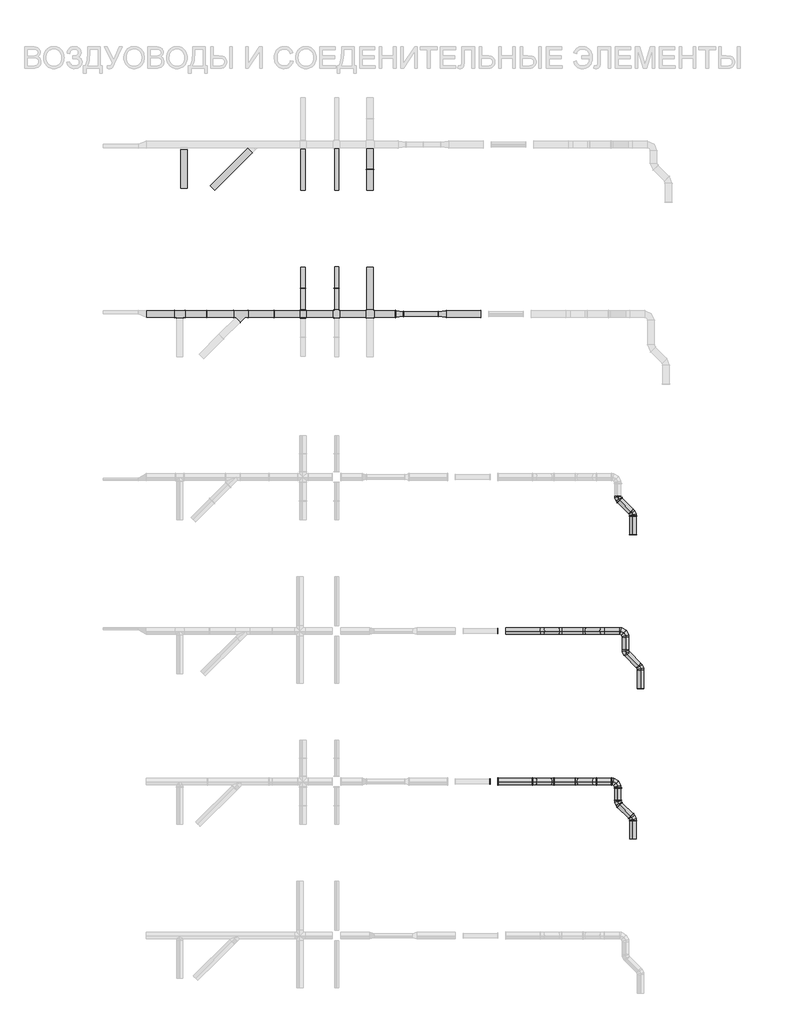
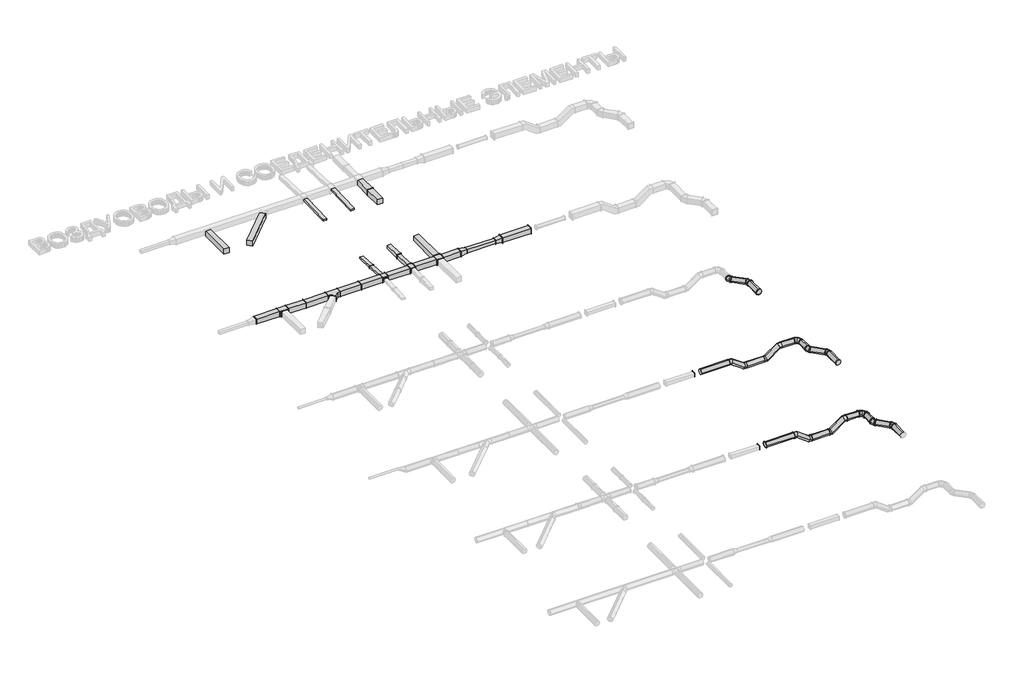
# One storey, part 4 of 8: 65 duct fittings, 35 duct segments.
"""IFC4 building model written with IfcOpenShell, lengths in millimetres."""

from ifc_helpers import new_model, si_unit, point, frame, frame_2d, origin, place, context, project, spatial, polyline, circle_curve, trimmed, segment, composite_curve, outline, extrude, transform, mapped, element, save
from components import duct_fitting_ac770645, duct_fitting_5eff2181, duct_fitting_46974226, duct_fitting_f76519de, duct_fitting_359aeb7f, duct_fitting_4d285b53, duct_fitting_5b7d299d, duct_fitting_28c7dad8, duct_fitting_134aa0d4, duct_fitting_7def25b7, duct_fitting_d50b9d73, duct_fitting_96916f98, duct_fitting_25271141, duct_fitting_49a873c3, duct_fitting_0a7cc2d9, duct_fitting_ae186bbf, duct_fitting_8ec2bed2, duct_fitting_57fa9806, duct_fitting_3be22136, duct_fitting_a3a79c44, duct_fitting_24f2fb5e

model = new_model("IFC4")

# Units and contexts
model_context = context("Model", 3, world=origin())
ifc_project = project(units=[si_unit("LENGTHUNIT", "METRE", prefix="MILLI")], contexts=[model_context])

# Site, building, storey
site = spatial("IfcSite", under=ifc_project)
building = spatial("IfcBuilding", under=site)
storey = spatial("IfcBuildingStorey", under=building, Name="Уровень 1", Elevation=0.0)

# Duct fittings
placement = place(None, origin())
duct_fitting_shape = duct_fitting_ac770645(model_context)
element("IfcDuctFitting", 1, ObjectType="BL_ЗаглушкаВоздуховодов_Круглая : Ниппельное соединение", at=placement, inside=storey, context=model_context, shape_type="MappedRepresentation", body=[
    mapped(duct_fitting_shape, transform((-24824.5423961, 6973.1889332, 1050.0), x_axis=(0.0, -1.0, 0.0), y_axis=(1.0, 0.0, 0.0), z_axis=(0.0, 0.0, 1.0))),
])
duct_fitting_2_shape = duct_fitting_5eff2181(model_context)
element("IfcDuctFitting", 2, ObjectType="BL_УткаВоздуховодов_Круглая : Ниппельное соединение", at=placement, inside=storey, context=model_context, shape_type="MappedRepresentation", body=[
    mapped(duct_fitting_2_shape, transform((-29531.6491772, 9680.2957144, 1050.0), x_axis=(1.0, 0.0, 0.0), y_axis=(0.0, 1.0, 0.0), z_axis=(0.0, 0.0, 1.0))),
])
duct_fitting_3_shape = duct_fitting_46974226(model_context)
element("IfcDuctFitting", 3, ObjectType="BL_ОтводВоздуховодов_Круглый : Ниппельное соединение", at=placement, inside=storey, context=model_context, shape_type="MappedRepresentation", body=[
    mapped(duct_fitting_3_shape, transform((-25531.6491772, 9680.2957144, 1050.0), x_axis=(0.0, 1.0, 0.0), y_axis=(-1.0, 0.0, 0.0), z_axis=(0.0, 0.0, 1.0))),
])
duct_fitting_4_shape = duct_fitting_f76519de(model_context)
element("IfcDuctFitting", 4, ObjectType="BL_ОтводВоздуховодов_Круглый : Ниппельное соединение", at=placement, inside=storey, context=model_context, shape_type="MappedRepresentation", body=[
    mapped(duct_fitting_4_shape, transform((-25531.6491772, 8680.2957144, 1050.0), x_axis=(0.0, -1.0, 0.0), y_axis=(1.0, 0.0, 0.0), z_axis=(0.0, 0.0, 1.0))),
])
element("IfcDuctFitting", 5, ObjectType="BL_ОтводВоздуховодов_Круглый : Ниппельное соединение", at=placement, inside=storey, context=model_context, shape_type="MappedRepresentation", body=[
    mapped(duct_fitting_4_shape, transform((-24824.5423961, 7973.1889332, 1050.0), x_axis=(0.0, 1.0, 0.0), y_axis=(-1.0, 0.0, 0.0), z_axis=(0.0, 0.0, 1.0))),
])
duct_fitting_5_shape = duct_fitting_359aeb7f(model_context)
element("IfcDuctFitting", 6, ObjectType="BL_ТройникВоздуховодов_Прямоугольный-45 : BL_ТройникВоздуховодов_Прямоугольный-45", at=placement, inside=storey, context=model_context, shape_type="MappedRepresentation", body=[
    mapped(duct_fitting_5_shape, transform((-43592.0423234, 24570.0855378, 1050.0), x_axis=(-1.0, 0.0, 0.0), y_axis=(0.0, -1.0, 0.0), z_axis=(0.0, 0.0, 1.0))),
])
duct_fitting_6_shape = duct_fitting_4d285b53(model_context)
element("IfcDuctFitting", 7, ObjectType="BL_ТройникВоздуховодов_Прямоугольный-90 : BL_ТройникВоздуховодов_Прямоугольный-90", at=placement, inside=storey, context=model_context, shape_type="MappedRepresentation", body=[
    mapped(duct_fitting_6_shape, transform((-46460.2026389, 24570.0855378, 1050.0), x_axis=(1.0, 0.0, 0.0), y_axis=(0.0, 1.0, 0.0), z_axis=(0.0, 0.0, 1.0))),
])
duct_fitting_7_shape = duct_fitting_5b7d299d(model_context)
element("IfcDuctFitting", 8, ObjectType="BL_УткаВоздуховодов_Круглая : Ниппельное соединение", at=placement, inside=storey, context=model_context, shape_type="MappedRepresentation", body=[
    mapped(duct_fitting_7_shape, transform((-26531.6491772, 9680.2957144, 1050.0), x_axis=(-1.0, 0.0, 0.0), y_axis=(0.0, -1.0, 0.0), z_axis=(0.0, 0.0, 1.0))),
])
duct_fitting_8_shape = duct_fitting_28c7dad8(model_context)
element("IfcDuctFitting", 9, ObjectType="BL_КрестовинаВоздуховодов_Прямоугольная : BL_КрестовинаВоздуховодов_Прямоугольная", at=placement, inside=storey, context=model_context, shape_type="MappedRepresentation", body=[
    mapped(duct_fitting_8_shape, transform((-37531.6491772, 24570.0855378, 1050.0), x_axis=(0.0, 1.0, 0.0), y_axis=(-1.0, 0.0, 0.0), z_axis=(0.0, 0.0, 1.0))),
])
duct_fitting_9_shape = duct_fitting_134aa0d4(model_context)
element("IfcDuctFitting", 10, ObjectType="BL_КрестовинаВоздуховодов_Прямоугольная : BL_КрестовинаВоздуховодов_Прямоугольная", at=placement, inside=storey, context=model_context, shape_type="MappedRepresentation", body=[
    mapped(duct_fitting_9_shape, transform((-39094.0705642, 24570.0855378, 1050.0), x_axis=(1.0, 0.0, 0.0), y_axis=(0.0, 1.0, 0.0), z_axis=(0.0, 0.0, 1.0))),
])
duct_fitting_10_shape = duct_fitting_7def25b7(model_context)
element("IfcDuctFitting", 11, ObjectType="BL_КрестовинаВоздуховодов_Прямоугольная : BL_КрестовинаВоздуховодов_Прямоугольная", at=placement, inside=storey, context=model_context, shape_type="MappedRepresentation", body=[
    mapped(duct_fitting_10_shape, transform((-40674.0705642, 24570.0855378, 1050.0), x_axis=(1.0, 0.0, 0.0), y_axis=(0.0, 1.0, 0.0), z_axis=(0.0, 0.0, 1.0))),
])
duct_fitting_11_shape = duct_fitting_d50b9d73(model_context)
element("IfcDuctFitting", 12, ObjectType="BL_ПереходникВоздуховодов_Прямоугольный : BL_ПереходникВоздуховодов_Прямоугольный", at=placement, inside=storey, context=model_context, shape_type="MappedRepresentation", body=[
    mapped(duct_fitting_11_shape, transform((-36331.6491772, 24570.0855378, 1050.0), x_axis=(1.0, 0.0, 0.0), y_axis=(0.0, 1.0, 0.0), z_axis=(0.0, 0.0, 1.0))),
])
duct_fitting_12_shape = duct_fitting_96916f98(model_context)
element("IfcDuctFitting", 13, ObjectType="BL_ПереходникВоздуховодов_Прямоугольный : BL_ПереходникВоздуховодов_Прямоугольный", at=placement, inside=storey, context=model_context, shape_type="MappedRepresentation", body=[
    mapped(duct_fitting_12_shape, transform((-34331.6491772, 24570.0855378, 1050.0), x_axis=(1.0, 0.0, 0.0), y_axis=(0.0, 1.0, 0.0), z_axis=(0.0, 0.0, 1.0))),
])
duct_fitting_13_shape = duct_fitting_25271141(model_context)
element("IfcDuctFitting", 14, ObjectType="BL_ФланецВоздуховдов-Двойной_Прямоугольный : BL_ФланецВоздуховдов-Двойной_Прямоугольный", at=placement, inside=storey, context=model_context, shape_type="MappedRepresentation", body=[
    mapped(duct_fitting_13_shape, transform((-37577.3234002, 31349.2969276, 1050.0), x_axis=(0.0, 1.0, 0.0), y_axis=(-1.0, 0.0, 0.0), z_axis=(0.0, 0.0, 1.0))),
])
element("IfcDuctFitting", 15, ObjectType="BL_ФланецВоздуховдов-Двойной_Прямоугольный : BL_ФланецВоздуховдов-Двойной_Прямоугольный", at=placement, inside=storey, context=model_context, shape_type="MappedRepresentation", body=[
    mapped(duct_fitting_13_shape, transform((-45197.0267813, 24524.4113148, 1050.0), x_axis=(-1.0, 0.0, 0.0), y_axis=(0.0, -1.0, 0.0), z_axis=(0.0, 0.0, 1.0))),
])
element("IfcDuctFitting", 16, ObjectType="BL_ФланецВоздуховдов-Двойной_Прямоугольный : BL_ФланецВоздуховдов-Двойной_Прямоугольный", at=placement, inside=storey, context=model_context, shape_type="MappedRepresentation", body=[
    mapped(duct_fitting_13_shape, transform((-42038.0564438, 24615.7597607, 1050.0), x_axis=(1.0, 0.0, 0.0), y_axis=(0.0, 1.0, 0.0), z_axis=(0.0, 0.0, 1.0))),
])
duct_fitting_14_shape = duct_fitting_49a873c3(model_context)
element("IfcDuctFitting", 17, ObjectType="BL_ФланецВоздуховдов-Двойной_Прямоугольный : BL_ФланецВоздуховдов-Двойной_Прямоугольный", at=placement, inside=storey, context=model_context, shape_type="MappedRepresentation", body=[
    mapped(duct_fitting_14_shape, transform((-39139.7447871, 25773.8072789, 1074.9162774), x_axis=(0.0, 0.9996878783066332, -0.024982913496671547), y_axis=(-1.0, 0.0, 0.0), z_axis=(0.0, 0.024982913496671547, 0.9996878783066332))),
])
duct_fitting_15_shape = duct_fitting_0a7cc2d9(model_context)
element("IfcDuctFitting", 18, ObjectType="BL_ФланецВоздуховдов-Двойной_Прямоугольный : BL_ФланецВоздуховдов-Двойной_Прямоугольный", at=placement, inside=storey, context=model_context, shape_type="MappedRepresentation", body=[
    mapped(duct_fitting_15_shape, transform((-40719.7447871, 25772.9313536, 999.8763348), x_axis=(0.0, 0.9987532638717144, -0.04991911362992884), y_axis=(-1.0, 0.0, 0.0), z_axis=(0.0, 0.04991911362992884, 0.9987532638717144))),
])
element("IfcDuctFitting", 19, ObjectType="BL_УткаВоздуховодов_Круглая : Фланцевое соединение", at=placement, inside=storey, context=model_context, shape_type="MappedRepresentation", body=[
    mapped(duct_fitting_2_shape, transform((-29894.0705642, 2611.2474283, 1050.0), x_axis=(1.0, 0.0, 0.0), y_axis=(0.0, 1.0, 0.0), z_axis=(0.0, 0.0, 1.0))),
])
element("IfcDuctFitting", 20, ObjectType="BL_УткаВоздуховодов_Круглая : Фланцевое соединение", at=placement, inside=storey, context=model_context, shape_type="MappedRepresentation", body=[
    mapped(duct_fitting_7_shape, transform((-26894.0705642, 2611.2474283, 1050.0), x_axis=(-1.0, 0.0, 0.0), y_axis=(0.0, -1.0, 0.0), z_axis=(0.0, 0.0, 1.0))),
])
element("IfcDuctFitting", 21, ObjectType="BL_ОтводВоздуховодов_Круглый : Фланцевое соединение", at=placement, inside=storey, context=model_context, shape_type="MappedRepresentation", body=[
    mapped(duct_fitting_3_shape, transform((-25894.0705642, 2611.2474283, 1050.0), x_axis=(0.0, 1.0, 0.0), y_axis=(-1.0, 0.0, 0.0), z_axis=(0.0, 0.0, 1.0))),
])
duct_fitting_16_shape = duct_fitting_ae186bbf(model_context)
element("IfcDuctFitting", 22, ObjectType="BL_ОтводВоздуховодов_Круглый : Фланцевое соединение", at=placement, inside=storey, context=model_context, shape_type="MappedRepresentation", body=[
    mapped(duct_fitting_16_shape, transform((-25894.0705642, 15911.2474283, 1050.0), x_axis=(0.0, -1.0, 0.0), y_axis=(1.0, 0.0, 0.0), z_axis=(0.0, 0.0, 1.0))),
])
element("IfcDuctFitting", 23, ObjectType="BL_ОтводВоздуховодов_Круглый : Фланцевое соединение", at=placement, inside=storey, context=model_context, shape_type="MappedRepresentation", body=[
    mapped(duct_fitting_16_shape, transform((-25186.963783, 15204.1406471, 1050.0), x_axis=(0.0, 1.0, 0.0), y_axis=(-1.0, 0.0, 0.0), z_axis=(0.0, 0.0, 1.0))),
])
element("IfcDuctFitting", 24, ObjectType="BL_ОтводВоздуховодов_Круглый : Фланцевое соединение", at=placement, inside=storey, context=model_context, shape_type="MappedRepresentation", body=[
    mapped(duct_fitting_16_shape, transform((-25894.0705642, 1611.2474283, 1050.0), x_axis=(0.0, -1.0, 0.0), y_axis=(1.0, 0.0, 0.0), z_axis=(0.0, 0.0, 1.0))),
])
element("IfcDuctFitting", 25, ObjectType="BL_ОтводВоздуховодов_Круглый : Фланцевое соединение", at=placement, inside=storey, context=model_context, shape_type="MappedRepresentation", body=[
    mapped(duct_fitting_16_shape, transform((-25186.963783, 904.1406471, 1050.0), x_axis=(0.0, 1.0, 0.0), y_axis=(-1.0, 0.0, 0.0), z_axis=(0.0, 0.0, 1.0))),
])
element("IfcDuctFitting", 26, ObjectType="BL_ЗаглушкаВоздуховодов_Круглая : Фланцевое соединение", at=placement, inside=storey, context=model_context, shape_type="MappedRepresentation", body=[
    mapped(duct_fitting_shape, transform((-25186.963783, 14204.1406471, 1050.0), x_axis=(0.0, -1.0, 0.0), y_axis=(1.0, 0.0, 0.0), z_axis=(0.0, 0.0, 1.0))),
])
duct_fitting_17_shape = duct_fitting_8ec2bed2(model_context)
element("IfcDuctFitting", 27, ObjectType="BL_ФланецВоздуховдов-Двойной_Круглый_БезКоннекторов : BL_ФланецВоздуховдов-Двойной_Круглый_БезКоннекторов", at=placement, inside=storey, context=model_context, shape_type="MappedRepresentation", body=[
    mapped(duct_fitting_17_shape, transform((-25773.9060457, 15855.6760154, 1050.0), x_axis=(0.7071067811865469, -0.707106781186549, 0.0), y_axis=(0.7071067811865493, 0.7071067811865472, 0.0), z_axis=(0.0, 0.0, 1.0000000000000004))),
])
element("IfcDuctFitting", 28, ObjectType="BL_ФланецВоздуховдов-Двойной_Круглый_БезКоннекторов : BL_ФланецВоздуховдов-Двойной_Круглый_БезКоннекторов", at=placement, inside=storey, context=model_context, shape_type="MappedRepresentation", body=[
    mapped(duct_fitting_17_shape, transform((-25232.6380059, 15079.8765784, 1050.0), x_axis=(0.0, 1.0, 0.0), y_axis=(-1.0, 0.0, 0.0), z_axis=(0.0, 0.0, 1.0))),
])
element("IfcDuctFitting", 29, ObjectType="BL_ФланецВоздуховдов-Двойной_Круглый_БезКоннекторов : BL_ФланецВоздуховдов-Двойной_Круглый_БезКоннекторов", at=placement, inside=storey, context=model_context, shape_type="MappedRepresentation", body=[
    mapped(duct_fitting_17_shape, transform((-25141.28956, 14204.1406471, 1050.0), x_axis=(0.0, -1.0, 0.0), y_axis=(1.0, 0.0, 0.0), z_axis=(0.0, 0.0, 1.0))),
])
element("IfcDuctFitting", 30, ObjectType="BL_ФланецВоздуховдов-Двойной_Круглый_БезКоннекторов : BL_ФланецВоздуховдов-Двойной_Круглый_БезКоннекторов", at=placement, inside=storey, context=model_context, shape_type="MappedRepresentation", body=[
    mapped(duct_fitting_17_shape, transform((-31519.0705642, 2656.9216512, 1050.0), x_axis=(1.0, 0.0, 0.0), y_axis=(0.0, 1.0, 0.0), z_axis=(0.0, 0.0, 1.0))),
])
element("IfcDuctFitting", 31, ObjectType="BL_ФланецВоздуховдов-Двойной_Круглый_БезКоннекторов : BL_ФланецВоздуховдов-Двойной_Круглый_БезКоннекторов", at=placement, inside=storey, context=model_context, shape_type="MappedRepresentation", body=[
    mapped(duct_fitting_17_shape, transform((-29894.0705642, 2656.9216512, 1050.0), x_axis=(1.0, 0.0, 0.0), y_axis=(0.0, 1.0, 0.0), z_axis=(0.0, 0.0, 1.0))),
])
element("IfcDuctFitting", 32, ObjectType="BL_ФланецВоздуховдов-Двойной_Круглый_БезКоннекторов : BL_ФланецВоздуховдов-Двойной_Круглый_БезКоннекторов", at=placement, inside=storey, context=model_context, shape_type="MappedRepresentation", body=[
    mapped(duct_fitting_17_shape, transform((-28894.0705642, 2656.9216512, 544.886411), x_axis=(1.0, 0.0, 0.0), y_axis=(0.0, 1.0, 0.0), z_axis=(0.0, 0.0, 1.0))),
])
element("IfcDuctFitting", 33, ObjectType="BL_ФланецВоздуховдов-Двойной_Круглый_БезКоннекторов : BL_ФланецВоздуховдов-Двойной_Круглый_БезКоннекторов", at=placement, inside=storey, context=model_context, shape_type="MappedRepresentation", body=[
    mapped(duct_fitting_17_shape, transform((-25939.7447871, 2311.2474283, 1050.0), x_axis=(0.0, 1.0, 0.0), y_axis=(-1.0, 0.0, 0.0), z_axis=(0.0, 0.0, 1.0))),
])
element("IfcDuctFitting", 34, ObjectType="BL_ФланецВоздуховдов-Двойной_Круглый_БезКоннекторов : BL_ФланецВоздуховдов-Двойной_Круглый_БезКоннекторов", at=placement, inside=storey, context=model_context, shape_type="MappedRepresentation", body=[
    mapped(duct_fitting_17_shape, transform((-26194.0705642, 2565.5732053, 1050.0), x_axis=(-1.0000000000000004, 0.0, 0.0), y_axis=(0.0, -1.0000000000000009, 0.0), z_axis=(0.0, 0.0, 1.0000000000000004))),
])
element("IfcDuctFitting", 35, ObjectType="BL_ФланецВоздуховдов-Двойной_Круглый_БезКоннекторов : BL_ФланецВоздуховдов-Двойной_Круглый_БезКоннекторов", at=placement, inside=storey, context=model_context, shape_type="MappedRepresentation", body=[
    mapped(duct_fitting_17_shape, transform((-25848.3963412, 1735.511497, 1050.0), x_axis=(0.0, -1.0, 0.0), y_axis=(1.0, 0.0, 0.0), z_axis=(0.0, 0.0, 1.0))),
])
element("IfcDuctFitting", 36, ObjectType="BL_ФланецВоздуховдов-Двойной_Круглый_БезКоннекторов : BL_ФланецВоздуховдов-Двойной_Круглый_БезКоннекторов", at=placement, inside=storey, context=model_context, shape_type="MappedRepresentation", body=[
    mapped(duct_fitting_17_shape, transform((-25773.9060457, 1555.6760154, 1050.0), x_axis=(0.7071067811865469, -0.707106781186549, 0.0), y_axis=(0.7071067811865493, 0.7071067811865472, 0.0), z_axis=(0.0, 0.0, 1.0000000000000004))),
])
element("IfcDuctFitting", 37, ObjectType="BL_ФланецВоздуховдов-Двойной_Круглый_БезКоннекторов : BL_ФланецВоздуховдов-Двойной_Круглый_БезКоннекторов", at=placement, inside=storey, context=model_context, shape_type="MappedRepresentation", body=[
    mapped(duct_fitting_17_shape, transform((-25232.6380059, 779.8765784, 1050.0), x_axis=(0.0, 1.0, 0.0), y_axis=(-1.0, 0.0, 0.0), z_axis=(0.0, 0.0, 1.0))),
])
element("IfcDuctFitting", 38, ObjectType="BL_ФланецВоздуховдов-Двойной_Круглый_БезКоннекторов : BL_ФланецВоздуховдов-Двойной_Круглый_БезКоннекторов", at=placement, inside=storey, context=model_context, shape_type="MappedRepresentation", body=[
    mapped(duct_fitting_17_shape, transform((-25307.1283014, 959.71206, 1050.0), x_axis=(-0.7071067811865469, 0.707106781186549, 0.0), y_axis=(-0.7071067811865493, -0.7071067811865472, 0.0), z_axis=(0.0, 0.0, 1.0000000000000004))),
])
duct_fitting_18_shape = duct_fitting_57fa9806(model_context)
element("IfcDuctFitting", 39, ObjectType="BL_ФланецВоздуховдов-Двойной_Круглый_БезКоннекторов : BL_ФланецВоздуховдов-Двойной_Круглый_БезКоннекторов", at=placement, inside=storey, context=model_context, shape_type="MappedRepresentation", body=[
    mapped(duct_fitting_18_shape, transform((-26894.0705642, 2656.9216512, 1050.0), x_axis=(-1.0, 0.0, 0.0), y_axis=(0.0, -1.0, 0.0), z_axis=(0.0, 0.0, 1.0))),
])
element("IfcDuctFitting", 40, ObjectType="BL_ФланецВоздуховдов-Двойной_Круглый_БезКоннекторов : BL_ФланецВоздуховдов-Двойной_Круглый_БезКоннекторов", at=placement, inside=storey, context=model_context, shape_type="MappedRepresentation", body=[
    mapped(duct_fitting_18_shape, transform((-27894.0705642, 2656.9216512, 544.886411), x_axis=(-1.0, 0.0, 0.0), y_axis=(0.0, -1.0, 0.0), z_axis=(0.0, 0.0, 1.0))),
])
element("IfcDuctFitting", 41, ObjectType="BL_ФланецВоздуховдов-Двойной_Прямоугольный_БезКоннекторов : BL_ФланецВоздуховдов-Двойной_Прямоугольный_БезКоннекторов", at=placement, inside=storey, context=model_context, shape_type="MappedRepresentation", body=[
    mapped(duct_fitting_13_shape, transform((-37577.3234002, 24770.0855378, 1050.0), x_axis=(0.0, 1.0, 0.0), y_axis=(-1.0, 0.0, 0.0), z_axis=(0.0, 0.0, 1.0))),
])
element("IfcDuctFitting", 42, ObjectType="BL_ФланецВоздуховдов-Двойной_Прямоугольный_БезКоннекторов : BL_ФланецВоздуховдов-Двойной_Прямоугольный_БезКоннекторов", at=placement, inside=storey, context=model_context, shape_type="MappedRepresentation", body=[
    mapped(duct_fitting_13_shape, transform((-37577.3234002, 24370.0855378, 1050.0), x_axis=(0.0, 1.0, 0.0), y_axis=(-1.0, 0.0, 0.0), z_axis=(0.0, 0.0, 1.0))),
])
element("IfcDuctFitting", 43, ObjectType="BL_ФланецВоздуховдов-Двойной_Прямоугольный_БезКоннекторов : BL_ФланецВоздуховдов-Двойной_Прямоугольный_БезКоннекторов", at=placement, inside=storey, context=model_context, shape_type="MappedRepresentation", body=[
    mapped(duct_fitting_13_shape, transform((-37731.6491772, 24615.7597607, 1050.0), x_axis=(1.0, 0.0, 0.0), y_axis=(0.0, 1.0, 0.0), z_axis=(0.0, 0.0, 1.0))),
])
element("IfcDuctFitting", 44, ObjectType="BL_ФланецВоздуховдов-Двойной_Прямоугольный_БезКоннекторов : BL_ФланецВоздуховдов-Двойной_Прямоугольный_БезКоннекторов", at=placement, inside=storey, context=model_context, shape_type="MappedRepresentation", body=[
    mapped(duct_fitting_13_shape, transform((-37331.6491772, 24524.4113148, 1050.0), x_axis=(-1.0, 0.0, 0.0), y_axis=(0.0, -1.0, 0.0), z_axis=(0.0, 0.0, 1.0))),
])
element("IfcDuctFitting", 45, ObjectType="BL_ФланецВоздуховдов-Двойной_Прямоугольный_БезКоннекторов : BL_ФланецВоздуховдов-Двойной_Прямоугольный_БезКоннекторов", at=placement, inside=storey, context=model_context, shape_type="MappedRepresentation", body=[
    mapped(duct_fitting_13_shape, transform((-38944.0705642, 24615.7597607, 1050.0), x_axis=(1.0, 0.0, 0.0), y_axis=(0.0, 1.0, 0.0), z_axis=(0.0, 0.0, 1.0))),
])
element("IfcDuctFitting", 46, ObjectType="BL_ФланецВоздуховдов-Двойной_Прямоугольный_БезКоннекторов : BL_ФланецВоздуховдов-Двойной_Прямоугольный_БезКоннекторов", at=placement, inside=storey, context=model_context, shape_type="MappedRepresentation", body=[
    mapped(duct_fitting_13_shape, transform((-39244.0705642, 24615.7597607, 1050.0), x_axis=(1.0, 0.0, 0.0), y_axis=(0.0, 1.0, 0.0), z_axis=(0.0, 0.0, 1.0))),
])
element("IfcDuctFitting", 47, ObjectType="BL_ФланецВоздуховдов-Двойной_Прямоугольный_БезКоннекторов : BL_ФланецВоздуховдов-Двойной_Прямоугольный_БезКоннекторов", at=placement, inside=storey, context=model_context, shape_type="MappedRepresentation", body=[
    mapped(duct_fitting_13_shape, transform((-40524.0705642, 24615.7597607, 1050.0), x_axis=(1.0, 0.0, 0.0), y_axis=(0.0, 1.0, 0.0), z_axis=(0.0, 0.0, 1.0))),
])
element("IfcDuctFitting", 48, ObjectType="BL_ФланецВоздуховдов-Двойной_Прямоугольный_БезКоннекторов : BL_ФланецВоздуховдов-Двойной_Прямоугольный_БезКоннекторов", at=placement, inside=storey, context=model_context, shape_type="MappedRepresentation", body=[
    mapped(duct_fitting_13_shape, transform((-40824.0705642, 24615.7597607, 1050.0), x_axis=(1.0, 0.0, 0.0), y_axis=(0.0, 1.0, 0.0), z_axis=(0.0, 0.0, 1.0))),
])
element("IfcDuctFitting", 49, ObjectType="BL_ФланецВоздуховдов-Двойной_Прямоугольный_БезКоннекторов : BL_ФланецВоздуховдов-Двойной_Прямоугольный_БезКоннекторов", at=placement, inside=storey, context=model_context, shape_type="MappedRepresentation", body=[
    mapped(duct_fitting_13_shape, transform((-36331.6491772, 24615.7597607, 1050.0), x_axis=(1.0, 0.0, 0.0), y_axis=(0.0, 1.0, 0.0), z_axis=(0.0, 0.0, 1.0))),
])
element("IfcDuctFitting", 50, ObjectType="BL_ФланецВоздуховдов-Двойной_Прямоугольный_БезКоннекторов : BL_ФланецВоздуховдов-Двойной_Прямоугольный_БезКоннекторов", at=placement, inside=storey, context=model_context, shape_type="MappedRepresentation", body=[
    mapped(duct_fitting_13_shape, transform((-33956.6491772, 24615.7597607, 1050.0), x_axis=(1.0, 0.0, 0.0), y_axis=(0.0, 1.0, 0.0), z_axis=(0.0, 0.0, 1.0))),
])
element("IfcDuctFitting", 51, ObjectType="BL_ФланецВоздуховдов-Двойной_Прямоугольный_БезКоннекторов : BL_ФланецВоздуховдов-Двойной_Прямоугольный_БезКоннекторов", at=placement, inside=storey, context=model_context, shape_type="MappedRepresentation", body=[
    mapped(duct_fitting_13_shape, transform((-32331.6491772, 24615.7597607, 1050.0), x_axis=(1.0, 0.0, 0.0), y_axis=(0.0, 1.0, 0.0), z_axis=(0.0, 0.0, 1.0))),
])
element("IfcDuctFitting", 52, ObjectType="BL_ФланецВоздуховдов-Двойной_Прямоугольный_БезКоннекторов : BL_ФланецВоздуховдов-Двойной_Прямоугольный_БезКоннекторов", at=placement, inside=storey, context=model_context, shape_type="MappedRepresentation", body=[
    mapped(duct_fitting_14_shape, transform((-39048.3963412, 24770.0855378, 1100.0), x_axis=(0.0, -1.0, 0.0), y_axis=(1.0, 0.0, 0.0), z_axis=(0.0, 0.0, 1.0))),
])
element("IfcDuctFitting", 53, ObjectType="BL_ФланецВоздуховдов-Двойной_Прямоугольный_БезКоннекторов : BL_ФланецВоздуховдов-Двойной_Прямоугольный_БезКоннекторов", at=placement, inside=storey, context=model_context, shape_type="MappedRepresentation", body=[
    mapped(duct_fitting_14_shape, transform((-39139.7447871, 24370.0855378, 1100.0), x_axis=(0.0, 1.0, 0.0), y_axis=(-1.0, 0.0, 0.0), z_axis=(0.0, 0.0, 1.0))),
])
element("IfcDuctFitting", 54, ObjectType="BL_ФланецВоздуховдов-Двойной_Прямоугольный_БезКоннекторов : BL_ФланецВоздуховдов-Двойной_Прямоугольный_БезКоннекторов", at=placement, inside=storey, context=model_context, shape_type="MappedRepresentation", body=[
    mapped(duct_fitting_14_shape, transform((-35956.6491772, 24615.7597607, 1050.0), x_axis=(1.0, 0.0, 0.0), y_axis=(0.0, 1.0, 0.0), z_axis=(0.0, 0.0, 1.0))),
])
element("IfcDuctFitting", 55, ObjectType="BL_ФланецВоздуховдов-Двойной_Прямоугольный_БезКоннекторов : BL_ФланецВоздуховдов-Двойной_Прямоугольный_БезКоннекторов", at=placement, inside=storey, context=model_context, shape_type="MappedRepresentation", body=[
    mapped(duct_fitting_14_shape, transform((-34331.6491772, 24615.7597607, 1050.0), x_axis=(1.0, 0.0, 0.0), y_axis=(0.0, 1.0, 0.0), z_axis=(0.0, 0.0, 1.0))),
])
element("IfcDuctFitting", 56, ObjectType="BL_ФланецВоздуховдов-Двойной_Прямоугольный_БезКоннекторов : BL_ФланецВоздуховдов-Двойной_Прямоугольный_БезКоннекторов", at=placement, inside=storey, context=model_context, shape_type="MappedRepresentation", body=[
    mapped(duct_fitting_14_shape, transform((-31894.0705642, 2656.9216512, 1050.0), x_axis=(1.0, 0.0, 0.0), y_axis=(0.0, 1.0, 0.0), z_axis=(0.0, 0.0, 1.0))),
])
element("IfcDuctFitting", 57, ObjectType="BL_ФланецВоздуховдов-Двойной_Прямоугольный_БезКоннекторов : BL_ФланецВоздуховдов-Двойной_Прямоугольный_БезКоннекторов", at=placement, inside=storey, context=model_context, shape_type="MappedRepresentation", body=[
    mapped(duct_fitting_15_shape, transform((-40628.3963412, 24770.0855378, 1050.0), x_axis=(0.0, -1.0, 0.0), y_axis=(1.0, 0.0, 0.0), z_axis=(0.0, 0.0, 1.0))),
])
element("IfcDuctFitting", 58, ObjectType="BL_ФланецВоздуховдов-Двойной_Прямоугольный_БезКоннекторов : BL_ФланецВоздуховдов-Двойной_Прямоугольный_БезКоннекторов", at=placement, inside=storey, context=model_context, shape_type="MappedRepresentation", body=[
    mapped(duct_fitting_15_shape, transform((-40719.7447871, 24370.0855378, 1080.0), x_axis=(0.0, 1.0, 0.0), y_axis=(-1.0, 0.0, 0.0), z_axis=(0.0, 0.0, 1.0))),
])
duct_fitting_19_shape = duct_fitting_3be22136(model_context)
element("IfcDuctFitting", 59, ObjectType="BL_ФланецВоздуховдов-Двойной_Прямоугольный_БезКоннекторов : BL_ФланецВоздуховдов-Двойной_Прямоугольный_БезКоннекторов", at=placement, inside=storey, context=model_context, shape_type="MappedRepresentation", body=[
    mapped(duct_fitting_19_shape, transform((-46210.2026389, 24615.7597607, 1050.0), x_axis=(1.0, 0.0, 0.0), y_axis=(0.0, 1.0, 0.0), z_axis=(0.0, 0.0, 1.0))),
])
element("IfcDuctFitting", 60, ObjectType="BL_ФланецВоздуховдов-Двойной_Прямоугольный_БезКоннекторов : BL_ФланецВоздуховдов-Двойной_Прямоугольный_БезКоннекторов", at=placement, inside=storey, context=model_context, shape_type="MappedRepresentation", body=[
    mapped(duct_fitting_19_shape, transform((-46414.528416, 24370.0855378, 1050.0), x_axis=(0.0, -1.0, 0.0), y_axis=(1.0, 0.0, 0.0), z_axis=(0.0, 0.0, 1.0))),
])
element("IfcDuctFitting", 61, ObjectType="BL_ФланецВоздуховдов-Двойной_Прямоугольный_БезКоннекторов : BL_ФланецВоздуховдов-Двойной_Прямоугольный_БезКоннекторов", at=placement, inside=storey, context=model_context, shape_type="MappedRepresentation", body=[
    mapped(duct_fitting_19_shape, transform((-43252.0423234, 24615.7597607, 1050.0), x_axis=(1.0, 0.0, 0.0), y_axis=(0.0, 1.0, 0.0), z_axis=(0.0, 0.0, 1.0))),
])
duct_fitting_20_shape = duct_fitting_a3a79c44(model_context)
element("IfcDuctFitting", 62, ObjectType="BL_ФланецВоздуховдов-Двойной_Прямоугольный_БезКоннекторов : BL_ФланецВоздуховдов-Двойной_Прямоугольный_БезКоннекторов", at=placement, inside=storey, context=model_context, shape_type="MappedRepresentation", body=[
    mapped(duct_fitting_20_shape, transform((-46710.2026389, 24615.7597607, 1050.0), x_axis=(-1.0, 0.0, 0.0), y_axis=(0.0, -1.0, 0.0), z_axis=(0.0, 0.0, 1.0))),
])
element("IfcDuctFitting", 63, ObjectType="BL_ФланецВоздуховдов-Двойной_Прямоугольный_БезКоннекторов : BL_ФланецВоздуховдов-Двойной_Прямоугольный_БезКоннекторов", at=placement, inside=storey, context=model_context, shape_type="MappedRepresentation", body=[
    mapped(duct_fitting_20_shape, transform((-43932.0423234, 24615.7597607, 1050.0), x_axis=(-1.0, 0.0, 0.0), y_axis=(0.0, -1.0, 0.0), z_axis=(0.0, 0.0, 1.0))),
])
element("IfcDuctFitting", 64, ObjectType="BL_ФланецВоздуховдов-Двойной_Прямоугольный_БезКоннекторов : BL_ФланецВоздуховдов-Двойной_Прямоугольный_БезКоннекторов", at=placement, inside=storey, context=model_context, shape_type="MappedRepresentation", body=[
    mapped(duct_fitting_20_shape, transform((-43765.7602325, 24310.9607343, 1050.0), x_axis=(-0.7071067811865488, -0.7071067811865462, 0.0), y_axis=(0.7071067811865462, -0.7071067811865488, 0.0), z_axis=(0.0, 0.0, 1.0))),
])
duct_fitting_21_shape = duct_fitting_24f2fb5e(model_context)
element("IfcDuctFitting", 65, ObjectType="BL_ФланецВоздуховдов-Двойной_Прямоугольный_БезКоннекторов : BL_ФланецВоздуховдов-Двойной_Прямоугольный_БезКоннекторов", at=placement, inside=storey, context=model_context, shape_type="MappedRepresentation", body=[
    mapped(duct_fitting_21_shape, transform((-31531.6491772, 9725.9699373, 1050.0), x_axis=(1.0, 0.0, 0.0), y_axis=(0.0, 1.0, 0.0), z_axis=(0.0, 0.0, 1.0))),
])

# Duct segments
element("IfcDuctSegment", 66, ObjectType="BL_Воздуховод прямоугольного сечения_Врезки_Фланцевое соединение", at=placement, inside=storey, context=model_context, shape_type="SweptSolid", body=[
    extrude(outline(polyline([(-46404.213598, 32274.2969276), (-46104.213598, 32274.2969276), (-46104.213598, 30474.2969276), (-46404.213598, 30474.2969276), (-46404.213598, 32274.2969276)])), frame((0.0, 0.0, 900.0), z_axis=(0.0, 0.0, 1.0), x_axis=(1.0, 0.0, 0.0)), (0.0, 0.0, 1.0), 300.0),
])
element("IfcDuctSegment", 67, ObjectType="BL_Воздуховод прямоугольного сечения_Врезки_Фланцевое соединение", at=placement, inside=storey, context=model_context, shape_type="SweptSolid", body=[
    extrude(outline(polyline([(-37681.6491772, 31348.2969276), (-37381.6491772, 31348.2969276), (-37381.6491772, 30374.2969276), (-37681.6491772, 30374.2969276), (-37681.6491772, 31348.2969276)])), frame((0.0, 0.0, 900.0), z_axis=(0.0, 0.0, 1.0), x_axis=(1.0, 0.0, 0.0)), (0.0, 0.0, 1.0), 300.0),
])
element("IfcDuctSegment", 68, ObjectType="BL_Воздуховод прямоугольного сечения_Врезки_Фланцевое соединение", at=placement, inside=storey, context=model_context, shape_type="SweptSolid", body=[
    extrude(outline(polyline([(-37681.6491772, 32324.2969276), (-37381.6491772, 32324.2969276), (-37381.6491772, 31350.2969276), (-37681.6491772, 31350.2969276), (-37681.6491772, 32324.2969276)])), frame((0.0, 0.0, 900.0), z_axis=(0.0, 0.0, 1.0), x_axis=(1.0, 0.0, 0.0)), (0.0, 0.0, 1.0), 300.0),
])
element("IfcDuctSegment", 69, ObjectType="BL_Воздуховод прямоугольного сечения_Врезки_Фланцевое соединение", at=placement, inside=storey, context=model_context, shape_type="SweptSolid", body=[
    extrude(outline(polyline([(0.0, -200.0), (0.0, 0.0), (1951.9225503, 0.0), (1951.9225503, -200.0), (0.0, -200.0)])), frame((-38994.0705642, 32325.5785576, 1100.0164285), z_axis=(0.0, -0.025632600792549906, 0.9996714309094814), x_axis=(0.0, -0.9996714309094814, -0.025632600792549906)), (0.0, 0.0, 1.0), 100.0),
])
element("IfcDuctSegment", 70, ObjectType="BL_Воздуховод прямоугольного сечения_Врезки_Фланцевое соединение", at=placement, inside=storey, context=model_context, shape_type="SweptSolid", body=[
    extrude(outline(polyline([(0.0, -200.0), (0.0, 0.0), (1950.1282683, 0.0), (1950.1282683, -200.0), (0.0, -200.0)])), frame((-40574.0705642, 32325.5785576, 1030.0164285), z_axis=(0.0, -0.025632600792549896, 0.9996714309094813), x_axis=(0.0, -0.9996714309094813, -0.025632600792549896)), (0.0, 0.0, 1.0), 100.0),
])
element("IfcDuctSegment", 71, ObjectType="BL_Воздуховод прямоугольного сечения_Тройники_Фланцевое соединение", at=placement, inside=storey, context=model_context, shape_type="SweptSolid", body=[
    extrude(outline(polyline([(-37331.6491772, 24420.0855378), (-37331.6491772, 24720.0855378), (-36331.6491772, 24720.0855378), (-36331.6491772, 24420.0855378), (-37331.6491772, 24420.0855378)])), frame((0.0, 0.0, 900.0), z_axis=(0.0, 0.0, 1.0), x_axis=(1.0, 0.0, 0.0)), (0.0, 0.0, 1.0), 300.0),
])
element("IfcDuctSegment", 72, ObjectType="BL_Воздуховод прямоугольного сечения_Тройники_Фланцевое соединение", at=placement, inside=storey, context=model_context, shape_type="SweptSolid", body=[
    extrude(outline(polyline([(-48040.6087126, 24420.0855378), (-48040.6087126, 24720.0855378), (-46710.2026389, 24720.0855378), (-46710.2026389, 24420.0855378), (-48040.6087126, 24420.0855378)])), frame((0.0, 0.0, 900.0), z_axis=(0.0, 0.0, 1.0), x_axis=(1.0, 0.0, 0.0)), (0.0, 0.0, 1.0), 300.0),
])
element("IfcDuctSegment", 73, ObjectType="BL_Воздуховод прямоугольного сечения_Тройники_Фланцевое соединение", at=placement, inside=storey, context=model_context, shape_type="SweptSolid", body=[
    extrude(outline(polyline([(-45196.0267813, 24420.0855378), (-45196.0267813, 24720.0855378), (-43932.0423234, 24720.0855378), (-43932.0423234, 24420.0855378), (-45196.0267813, 24420.0855378)])), frame((0.0, 0.0, 900.0), z_axis=(0.0, 0.0, 1.0), x_axis=(1.0, 0.0, 0.0)), (0.0, 0.0, 1.0), 300.0),
])
element("IfcDuctSegment", 74, ObjectType="BL_Воздуховод прямоугольного сечения_Врезки_Фланцевое соединение", at=placement, inside=storey, context=model_context, shape_type="SweptSolid", body=[
    extrude(outline(polyline([(-43265.3981429, 32338.9415885), (-43053.2661085, 32126.8095541), (-44811.8447523, 30368.2309104), (-45023.9767867, 30580.3629447), (-43265.3981429, 32338.9415885)])), frame((0.0, 0.0, 900.0), z_axis=(0.0, 0.0, 1.0), x_axis=(1.0, 0.0, 0.0)), (0.0, 0.0, 1.0), 300.0),
])
element("IfcDuctSegment", 75, ObjectType="BL_Воздуховод прямоугольного сечения_Тройники_Фланцевое соединение", at=placement, inside=storey, context=model_context, shape_type="SweptSolid", body=[
    extrude(outline(polyline([(-37681.6491772, 26770.8287226), (-37381.6491772, 26770.8287226), (-37381.6491772, 24770.0855378), (-37681.6491772, 24770.0855378), (-37681.6491772, 26770.8287226)])), frame((0.0, 0.0, 900.0), z_axis=(0.0, 0.0, 1.0), x_axis=(1.0, 0.0, 0.0)), (0.0, 0.0, 1.0), 300.0),
])
element("IfcDuctSegment", 76, ObjectType="BL_Воздуховод прямоугольного сечения_Тройники_Фланцевое соединение", at=placement, inside=storey, context=model_context, shape_type="SweptSolid", body=[
    extrude(outline(polyline([(-42039.0564438, 24720.0855378), (-42039.0564438, 24420.0855378), (-43252.0423234, 24420.0855378), (-43252.0423234, 24720.0855378), (-42039.0564438, 24720.0855378)])), frame((0.0, 0.0, 900.0), z_axis=(0.0, 0.0, 1.0), x_axis=(1.0, 0.0, 0.0)), (0.0, 0.0, 1.0), 300.0),
])
element("IfcDuctSegment", 77, ObjectType="BL_Воздуховод прямоугольного сечения_Тройники_Фланцевое соединение", at=placement, inside=storey, context=model_context, shape_type="SweptSolid", body=[
    extrude(outline(polyline([(0.0, -200.0), (0.0, 0.0), (1003.0351223, 0.0), (1003.0351223, -200.0), (0.0, -200.0)])), frame((-38994.0705642, 25770.3092997, 974.9724725), z_axis=(0.0, 0.02498291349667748, 0.9996878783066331), x_axis=(0.0, -0.9996878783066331, 0.02498291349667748)), (0.0, 0.0, 1.0), 200.0),
])
element("IfcDuctSegment", 78, ObjectType="BL_Воздуховод прямоугольного сечения_Тройники_Фланцевое соединение", at=placement, inside=storey, context=model_context, shape_type="SweptSolid", body=[
    extrude(outline(polyline([(-37731.6491772, 24720.0855378), (-37731.6491772, 24420.0855378), (-38944.0705642, 24420.0855378), (-38944.0705642, 24720.0855378), (-37731.6491772, 24720.0855378)])), frame((0.0, 0.0, 900.0), z_axis=(0.0, 0.0, 1.0), x_axis=(1.0, 0.0, 0.0)), (0.0, 0.0, 1.0), 300.0),
])
element("IfcDuctSegment", 79, ObjectType="BL_Воздуховод прямоугольного сечения_Тройники_Фланцевое соединение", at=placement, inside=storey, context=model_context, shape_type="SweptSolid", body=[
    extrude(outline(polyline([(0.0, -200.0), (0.0, 0.0), (1003.0976607, 0.0), (1003.0976607, -200.0), (0.0, -200.0)])), frame((-40574.0705642, 25769.4366447, 949.9885907), z_axis=(0.0, 0.04991911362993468, 0.998753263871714), x_axis=(0.0, -0.998753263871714, 0.04991911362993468)), (0.0, 0.0, 1.0), 100.0),
])
element("IfcDuctSegment", 80, ObjectType="BL_Воздуховод прямоугольного сечения_Тройники_Фланцевое соединение", at=placement, inside=storey, context=model_context, shape_type="SweptSolid", body=[
    extrude(outline(polyline([(-39244.0705642, 24720.0855378), (-39244.0705642, 24420.0855378), (-40524.0705642, 24420.0855378), (-40524.0705642, 24720.0855378), (-39244.0705642, 24720.0855378)])), frame((0.0, 0.0, 900.0), z_axis=(0.0, 0.0, 1.0), x_axis=(1.0, 0.0, 0.0)), (0.0, 0.0, 1.0), 300.0),
])
element("IfcDuctSegment", 81, ObjectType="BL_Воздуховод прямоугольного сечения_Тройники_Фланцевое соединение", at=placement, inside=storey, context=model_context, shape_type="SweptSolid", body=[
    extrude(outline(polyline([(-35956.6491772, 24470.0855378), (-35956.6491772, 24670.0855378), (-34331.6491772, 24670.0855378), (-34331.6491772, 24470.0855378), (-35956.6491772, 24470.0855378)])), frame((0.0, 0.0, 950.0), z_axis=(0.0, 0.0, 1.0), x_axis=(1.0, 0.0, 0.0)), (0.0, 0.0, 1.0), 200.0),
])
element("IfcDuctSegment", 82, ObjectType="BL_Воздуховод прямоугольного сечения_Тройники_Фланцевое соединение", at=placement, inside=storey, context=model_context, shape_type="SweptSolid", body=[
    extrude(outline(polyline([(-33956.6491772, 24420.0855378), (-33956.6491772, 24720.0855378), (-32331.6491772, 24720.0855378), (-32331.6491772, 24420.0855378), (-33956.6491772, 24420.0855378)])), frame((0.0, 0.0, 900.0), z_axis=(0.0, 0.0, 1.0), x_axis=(1.0, 0.0, 0.0)), (0.0, 0.0, 1.0), 300.0),
])
element("IfcDuctSegment", 83, ObjectType="BL_Воздуховод круглого сечения_Тройники_Фланцевое соединение", at=placement, inside=storey, context=model_context, shape_type="SweptSolid", body=[
    extrude(outline(composite_curve([segment(trimmed(circle_curve(frame_2d((0.0, -150.0)), 150.0), [point((-150.0, -150.0))], [point((0.0, 0.0))], False, "CARTESIAN"), True, "CONTINUOUS"), segment(trimmed(circle_curve(frame_2d((0.0, -150.0)), 150.0), [point((0.0, 0.0))], [point((150.0, -150.0))], False, "CARTESIAN"), True, "CONTINUOUS"), segment(trimmed(circle_curve(frame_2d((0.0, -150.0)), 150.0), [point((150.0, -150.0))], [point((0.0, -300.0))], False, "CARTESIAN"), True, "CONTINUOUS"), segment(trimmed(circle_curve(frame_2d((0.0, -150.0)), 150.0), [point((0.0, -300.0))], [point((-150.0, -150.0))], False, "CARTESIAN"), True, "CONTINUOUS")], self_intersect=False)), frame((-25274.8317486, 15292.0086127, 900.0), z_axis=(-0.7071067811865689, 0.7071067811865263, 0.0), x_axis=(0.7071067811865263, 0.7071067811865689, 0.0)), (0.0, 0.0, 1.0), 751.4718626),
])
element("IfcDuctSegment", 84, ObjectType="BL_Воздуховод круглого сечения_Тройники_Фланцевое соединение", at=placement, inside=storey, context=model_context, shape_type="SweptSolid", body=[
    extrude(outline(composite_curve([segment(trimmed(circle_curve(frame_2d((1050.0, -25186.963783)), 150.0), [point((1050.0, -25336.963783))], [point((900.0, -25186.963783))], False, "CARTESIAN"), True, "CONTINUOUS"), segment(trimmed(circle_curve(frame_2d((1050.0, -25186.963783)), 150.0), [point((900.0, -25186.963783))], [point((1050.0, -25036.963783))], False, "CARTESIAN"), True, "CONTINUOUS"), segment(trimmed(circle_curve(frame_2d((1050.0, -25186.963783)), 150.0), [point((1050.0, -25036.963783))], [point((1200.0, -25186.963783))], False, "CARTESIAN"), True, "CONTINUOUS"), segment(trimmed(circle_curve(frame_2d((1050.0, -25186.963783)), 150.0), [point((1200.0, -25186.963783))], [point((1050.0, -25336.963783))], False, "CARTESIAN"), True, "CONTINUOUS")], self_intersect=False)), frame((0.0, 14204.1406471, 0.0), z_axis=(0.0, 1.0, 0.0), x_axis=(0.0, 0.0, 1.0)), (0.0, 0.0, 1.0), 875.7359313),
])
element("IfcDuctSegment", 85, ObjectType="BL_Воздуховод круглого сечения_Тройники_Ниппельное соединение", at=placement, inside=storey, context=model_context, shape_type="SweptSolid", body=[
    extrude(outline(composite_curve([segment(trimmed(circle_curve(frame_2d((9680.2957144, 1050.0)), 150.0), [point((9530.2957144, 1050.0))], [point((9680.2957144, 1200.0))], False, "CARTESIAN"), True, "CONTINUOUS"), segment(trimmed(circle_curve(frame_2d((9680.2957144, 1050.0)), 150.0), [point((9680.2957144, 1200.0))], [point((9830.2957144, 1050.0))], False, "CARTESIAN"), True, "CONTINUOUS"), segment(trimmed(circle_curve(frame_2d((9680.2957144, 1050.0)), 150.0), [point((9830.2957144, 1050.0))], [point((9680.2957144, 900.0))], False, "CARTESIAN"), True, "CONTINUOUS"), segment(trimmed(circle_curve(frame_2d((9680.2957144, 1050.0)), 150.0), [point((9680.2957144, 900.0))], [point((9530.2957144, 1050.0))], False, "CARTESIAN"), True, "CONTINUOUS")], self_intersect=False)), frame((-31156.6491772, 0.0, 0.0), z_axis=(1.0, 0.0, 0.0), x_axis=(0.0, 1.0, 0.0)), (0.0, 0.0, 1.0), 1625.0),
])
element("IfcDuctSegment", 86, ObjectType="BL_Воздуховод круглого сечения_Тройники_Ниппельное соединение", at=placement, inside=storey, context=model_context, shape_type="SweptSolid", body=[
    extrude(outline(composite_curve([segment(trimmed(circle_curve(frame_2d((9680.2957144, 544.886411)), 150.0), [point((9830.2957144, 544.886411))], [point((9680.2957144, 394.886411))], False, "CARTESIAN"), True, "CONTINUOUS"), segment(trimmed(circle_curve(frame_2d((9680.2957144, 544.886411)), 150.0), [point((9680.2957144, 394.886411))], [point((9530.2957144, 544.886411))], False, "CARTESIAN"), True, "CONTINUOUS"), segment(trimmed(circle_curve(frame_2d((9680.2957144, 544.886411)), 150.0), [point((9530.2957144, 544.886411))], [point((9680.2957144, 694.886411))], False, "CARTESIAN"), True, "CONTINUOUS"), segment(trimmed(circle_curve(frame_2d((9680.2957144, 544.886411)), 150.0), [point((9680.2957144, 694.886411))], [point((9830.2957144, 544.886411))], False, "CARTESIAN"), True, "CONTINUOUS")], self_intersect=False)), frame((-28531.6491772, 0.0, 0.0), z_axis=(1.0, 0.0, 0.0), x_axis=(0.0, 1.0, 0.0)), (0.0, 0.0, 1.0), 1000.0),
])
element("IfcDuctSegment", 87, ObjectType="BL_Воздуховод круглого сечения_Тройники_Ниппельное соединение", at=placement, inside=storey, context=model_context, shape_type="SweptSolid", body=[
    extrude(outline(composite_curve([segment(trimmed(circle_curve(frame_2d((9680.2957144, 1050.0)), 150.0), [point((9530.2957144, 1050.0))], [point((9680.2957144, 1200.0))], False, "CARTESIAN"), True, "CONTINUOUS"), segment(trimmed(circle_curve(frame_2d((9680.2957144, 1050.0)), 150.0), [point((9680.2957144, 1200.0))], [point((9830.2957144, 1050.0))], False, "CARTESIAN"), True, "CONTINUOUS"), segment(trimmed(circle_curve(frame_2d((9680.2957144, 1050.0)), 150.0), [point((9830.2957144, 1050.0))], [point((9680.2957144, 900.0))], False, "CARTESIAN"), True, "CONTINUOUS"), segment(trimmed(circle_curve(frame_2d((9680.2957144, 1050.0)), 150.0), [point((9680.2957144, 900.0))], [point((9530.2957144, 1050.0))], False, "CARTESIAN"), True, "CONTINUOUS")], self_intersect=False)), frame((-26531.6491772, 0.0, 0.0), z_axis=(1.0, 0.0, 0.0), x_axis=(0.0, 1.0, 0.0)), (0.0, 0.0, 1.0), 700.0),
])
element("IfcDuctSegment", 88, ObjectType="BL_Воздуховод круглого сечения_Тройники_Ниппельное соединение", at=placement, inside=storey, context=model_context, shape_type="SweptSolid", body=[
    extrude(outline(composite_curve([segment(trimmed(circle_curve(frame_2d((1050.0, -25531.6491772)), 150.0), [point((1050.0, -25681.6491772))], [point((900.0, -25531.6491772))], False, "CARTESIAN"), True, "CONTINUOUS"), segment(trimmed(circle_curve(frame_2d((1050.0, -25531.6491772)), 150.0), [point((900.0, -25531.6491772))], [point((1050.0, -25381.6491772))], False, "CARTESIAN"), True, "CONTINUOUS"), segment(trimmed(circle_curve(frame_2d((1050.0, -25531.6491772)), 150.0), [point((1050.0, -25381.6491772))], [point((1200.0, -25531.6491772))], False, "CARTESIAN"), True, "CONTINUOUS"), segment(trimmed(circle_curve(frame_2d((1050.0, -25531.6491772)), 150.0), [point((1200.0, -25531.6491772))], [point((1050.0, -25681.6491772))], False, "CARTESIAN"), True, "CONTINUOUS")], self_intersect=False)), frame((0.0, 8804.5597831, 0.0), z_axis=(0.0, 1.0, 0.0), x_axis=(0.0, 0.0, 1.0)), (0.0, 0.0, 1.0), 575.7359313),
])
element("IfcDuctSegment", 89, ObjectType="BL_Воздуховод круглого сечения_Тройники_Ниппельное соединение", at=placement, inside=storey, context=model_context, shape_type="SweptSolid", body=[
    extrude(outline(composite_curve([segment(trimmed(circle_curve(frame_2d((0.0, -150.0)), 150.0), [point((-150.0, -150.0))], [point((0.0, 0.0))], False, "CARTESIAN"), True, "CONTINUOUS"), segment(trimmed(circle_curve(frame_2d((0.0, -150.0)), 150.0), [point((0.0, 0.0))], [point((150.0, -150.0))], False, "CARTESIAN"), True, "CONTINUOUS"), segment(trimmed(circle_curve(frame_2d((0.0, -150.0)), 150.0), [point((150.0, -150.0))], [point((0.0, -300.0))], False, "CARTESIAN"), True, "CONTINUOUS"), segment(trimmed(circle_curve(frame_2d((0.0, -150.0)), 150.0), [point((0.0, -300.0))], [point((-150.0, -150.0))], False, "CARTESIAN"), True, "CONTINUOUS")], self_intersect=False)), frame((-24912.4103617, 8061.0568988, 900.0), z_axis=(-0.7071067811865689, 0.7071067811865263, 0.0), x_axis=(0.7071067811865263, 0.7071067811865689, 0.0)), (0.0, 0.0, 1.0), 751.4718626),
])
element("IfcDuctSegment", 90, ObjectType="BL_Воздуховод круглого сечения_Тройники_Ниппельное соединение", at=placement, inside=storey, context=model_context, shape_type="SweptSolid", body=[
    extrude(outline(composite_curve([segment(trimmed(circle_curve(frame_2d((1050.0, -24824.5423961)), 150.0), [point((1050.0, -24974.5423961))], [point((900.0, -24824.5423961))], False, "CARTESIAN"), True, "CONTINUOUS"), segment(trimmed(circle_curve(frame_2d((1050.0, -24824.5423961)), 150.0), [point((900.0, -24824.5423961))], [point((1050.0, -24674.5423961))], False, "CARTESIAN"), True, "CONTINUOUS"), segment(trimmed(circle_curve(frame_2d((1050.0, -24824.5423961)), 150.0), [point((1050.0, -24674.5423961))], [point((1200.0, -24824.5423961))], False, "CARTESIAN"), True, "CONTINUOUS"), segment(trimmed(circle_curve(frame_2d((1050.0, -24824.5423961)), 150.0), [point((1200.0, -24824.5423961))], [point((1050.0, -24974.5423961))], False, "CARTESIAN"), True, "CONTINUOUS")], self_intersect=False)), frame((0.0, 6973.1889332, 0.0), z_axis=(0.0, 1.0, 0.0), x_axis=(0.0, 0.0, 1.0)), (0.0, 0.0, 1.0), 875.7359313),
])
element("IfcDuctSegment", 91, ObjectType="BL_Воздуховод прямоугольного сечения_Тройники_Фланцевое соединение", at=placement, inside=storey, context=model_context, shape_type="SweptSolid", body=[
    extrude(outline(polyline([(-46210.2026389, 24420.0855378), (-46210.2026389, 24720.0855378), (-45198.0267813, 24720.0855378), (-45198.0267813, 24420.0855378), (-46210.2026389, 24420.0855378)])), frame((0.0, 0.0, 900.0), z_axis=(0.0, 0.0, 1.0), x_axis=(1.0, 0.0, 0.0)), (0.0, 0.0, 1.0), 300.0),
])
element("IfcDuctSegment", 92, ObjectType="BL_Воздуховод прямоугольного сечения_Тройники_Фланцевое соединение", at=placement, inside=storey, context=model_context, shape_type="SweptSolid", body=[
    extrude(outline(polyline([(-40824.0705642, 24720.0855378), (-40824.0705642, 24420.0855378), (-42037.0564438, 24420.0855378), (-42037.0564438, 24720.0855378), (-40824.0705642, 24720.0855378)])), frame((0.0, 0.0, 900.0), z_axis=(0.0, 0.0, 1.0), x_axis=(1.0, 0.0, 0.0)), (0.0, 0.0, 1.0), 300.0),
])
element("IfcDuctSegment", 93, ObjectType="BL_Воздуховод прямоугольного сечения_Тройники_Фланцевое соединение", at=placement, inside=storey, context=model_context, shape_type="SweptSolid", body=[
    extrude(outline(polyline([(0.0, -200.0), (0.0, 0.0), (993.1511253, 0.0), (993.1511253, -200.0), (0.0, -200.0)])), frame((-40574.0705642, 26763.3470791, 900.3115286), z_axis=(0.0, 0.04991911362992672, 0.9987532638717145), x_axis=(0.0, -0.9987532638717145, 0.04991911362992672)), (0.0, 0.0, 1.0), 100.0),
])
element("IfcDuctSegment", 94, ObjectType="BL_Воздуховод прямоугольного сечения_Тройники_Фланцевое соединение", at=placement, inside=storey, context=model_context, shape_type="SweptSolid", body=[
    extrude(outline(polyline([(0.0, -200.0), (0.0, 0.0), (996.3327329, 0.0), (996.3327329, -200.0), (0.0, -200.0)])), frame((-38994.0705642, 26768.3304312, 950.0312122), z_axis=(0.0, 0.024982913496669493, 0.9996878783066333), x_axis=(0.0, -0.9996878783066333, 0.024982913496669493)), (0.0, 0.0, 1.0), 200.0),
])
element("IfcDuctSegment", 95, ObjectType="BL_Воздуховод круглого сечения_Врезки_Фланцевое соединение", at=placement, inside=storey, context=model_context, shape_type="SweptSolid", body=[
    extrude(outline(composite_curve([segment(trimmed(circle_curve(frame_2d((2611.2474283, 1050.0)), 150.0), [point((2461.2474283, 1050.0))], [point((2611.2474283, 1200.0))], False, "CARTESIAN"), True, "CONTINUOUS"), segment(trimmed(circle_curve(frame_2d((2611.2474283, 1050.0)), 150.0), [point((2611.2474283, 1200.0))], [point((2761.2474283, 1050.0))], False, "CARTESIAN"), True, "CONTINUOUS"), segment(trimmed(circle_curve(frame_2d((2611.2474283, 1050.0)), 150.0), [point((2761.2474283, 1050.0))], [point((2611.2474283, 900.0))], False, "CARTESIAN"), True, "CONTINUOUS"), segment(trimmed(circle_curve(frame_2d((2611.2474283, 1050.0)), 150.0), [point((2611.2474283, 900.0))], [point((2461.2474283, 1050.0))], False, "CARTESIAN"), True, "CONTINUOUS")], self_intersect=False)), frame((-31519.0705642, 0.0, 0.0), z_axis=(1.0, 0.0, 0.0), x_axis=(0.0, 1.0, 0.0)), (0.0, 0.0, 1.0), 1625.0),
])
element("IfcDuctSegment", 96, ObjectType="BL_Воздуховод круглого сечения_Врезки_Фланцевое соединение", at=placement, inside=storey, context=model_context, shape_type="SweptSolid", body=[
    extrude(outline(composite_curve([segment(trimmed(circle_curve(frame_2d((0.0, 150.0)), 150.0), [point((-150.0, 150.0))], [point((0.0, 300.0))], False, "CARTESIAN"), True, "CONTINUOUS"), segment(trimmed(circle_curve(frame_2d((0.0, 150.0)), 150.0), [point((0.0, 300.0))], [point((150.0, 150.0))], False, "CARTESIAN"), True, "CONTINUOUS"), segment(trimmed(circle_curve(frame_2d((0.0, 150.0)), 150.0), [point((150.0, 150.0))], [point((0.0, 0.0))], False, "CARTESIAN"), True, "CONTINUOUS"), segment(trimmed(circle_curve(frame_2d((0.0, 150.0)), 150.0), [point((0.0, 0.0))], [point((-150.0, 150.0))], False, "CARTESIAN"), True, "CONTINUOUS")], self_intersect=False)), frame((-28894.0685258, 2611.2474283, 394.886411), z_axis=(0.9999999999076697, 0.0, 1.3588985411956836e-05), x_axis=(0.0, 1.0, 0.0)), (0.0, 0.0, 1.0), 1000.0000001),
])
element("IfcDuctSegment", 97, ObjectType="BL_Воздуховод круглого сечения_Врезки_Фланцевое соединение", at=placement, inside=storey, context=model_context, shape_type="SweptSolid", body=[
    extrude(outline(composite_curve([segment(trimmed(circle_curve(frame_2d((2611.2474283, 1050.0)), 150.0), [point((2461.2474283, 1050.0))], [point((2611.2474283, 1200.0))], False, "CARTESIAN"), True, "CONTINUOUS"), segment(trimmed(circle_curve(frame_2d((2611.2474283, 1050.0)), 150.0), [point((2611.2474283, 1200.0))], [point((2761.2474283, 1050.0))], False, "CARTESIAN"), True, "CONTINUOUS"), segment(trimmed(circle_curve(frame_2d((2611.2474283, 1050.0)), 150.0), [point((2761.2474283, 1050.0))], [point((2611.2474283, 900.0))], False, "CARTESIAN"), True, "CONTINUOUS"), segment(trimmed(circle_curve(frame_2d((2611.2474283, 1050.0)), 150.0), [point((2611.2474283, 900.0))], [point((2461.2474283, 1050.0))], False, "CARTESIAN"), True, "CONTINUOUS")], self_intersect=False)), frame((-26894.0705642, 0.0, 0.0), z_axis=(1.0, 0.0, 0.0), x_axis=(0.0, 1.0, 0.0)), (0.0, 0.0, 1.0), 700.0),
])
element("IfcDuctSegment", 98, ObjectType="BL_Воздуховод круглого сечения_Врезки_Фланцевое соединение", at=placement, inside=storey, context=model_context, shape_type="SweptSolid", body=[
    extrude(outline(composite_curve([segment(trimmed(circle_curve(frame_2d((1050.0, -25894.0705642)), 150.0), [point((1050.0, -26044.0705642))], [point((900.0, -25894.0705642))], False, "CARTESIAN"), True, "CONTINUOUS"), segment(trimmed(circle_curve(frame_2d((1050.0, -25894.0705642)), 150.0), [point((900.0, -25894.0705642))], [point((1050.0, -25744.0705642))], False, "CARTESIAN"), True, "CONTINUOUS"), segment(trimmed(circle_curve(frame_2d((1050.0, -25894.0705642)), 150.0), [point((1050.0, -25744.0705642))], [point((1200.0, -25894.0705642))], False, "CARTESIAN"), True, "CONTINUOUS"), segment(trimmed(circle_curve(frame_2d((1050.0, -25894.0705642)), 150.0), [point((1200.0, -25894.0705642))], [point((1050.0, -26044.0705642))], False, "CARTESIAN"), True, "CONTINUOUS")], self_intersect=False)), frame((0.0, 1735.511497, 0.0), z_axis=(0.0, 1.0, 0.0), x_axis=(0.0, 0.0, 1.0)), (0.0, 0.0, 1.0), 575.7359313),
])
element("IfcDuctSegment", 99, ObjectType="BL_Воздуховод круглого сечения_Врезки_Фланцевое соединение", at=placement, inside=storey, context=model_context, shape_type="SweptSolid", body=[
    extrude(outline(composite_curve([segment(trimmed(circle_curve(frame_2d((0.0, -150.0)), 150.0), [point((-150.0, -150.0))], [point((0.0, 0.0))], False, "CARTESIAN"), True, "CONTINUOUS"), segment(trimmed(circle_curve(frame_2d((0.0, -150.0)), 150.0), [point((0.0, 0.0))], [point((150.0, -150.0))], False, "CARTESIAN"), True, "CONTINUOUS"), segment(trimmed(circle_curve(frame_2d((0.0, -150.0)), 150.0), [point((150.0, -150.0))], [point((0.0, -300.0))], False, "CARTESIAN"), True, "CONTINUOUS"), segment(trimmed(circle_curve(frame_2d((0.0, -150.0)), 150.0), [point((0.0, -300.0))], [point((-150.0, -150.0))], False, "CARTESIAN"), True, "CONTINUOUS")], self_intersect=False)), frame((-25274.8317486, 992.0086127, 900.0), z_axis=(-0.70710678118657, 0.7071067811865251, 0.0), x_axis=(0.7071067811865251, 0.70710678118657, 0.0)), (0.0, 0.0, 1.0), 751.4718626),
])
element("IfcDuctSegment", 100, ObjectType="BL_Воздуховод круглого сечения_Врезки_Фланцевое соединение", at=placement, inside=storey, context=model_context, shape_type="SweptSolid", body=[
    extrude(outline(composite_curve([segment(trimmed(circle_curve(frame_2d((1050.0, -25186.963783)), 150.0), [point((1050.0, -25336.963783))], [point((900.0, -25186.963783))], False, "CARTESIAN"), True, "CONTINUOUS"), segment(trimmed(circle_curve(frame_2d((1050.0, -25186.963783)), 150.0), [point((900.0, -25186.963783))], [point((1050.0, -25036.963783))], False, "CARTESIAN"), True, "CONTINUOUS"), segment(trimmed(circle_curve(frame_2d((1050.0, -25186.963783)), 150.0), [point((1050.0, -25036.963783))], [point((1200.0, -25186.963783))], False, "CARTESIAN"), True, "CONTINUOUS"), segment(trimmed(circle_curve(frame_2d((1050.0, -25186.963783)), 150.0), [point((1200.0, -25186.963783))], [point((1050.0, -25336.963783))], False, "CARTESIAN"), True, "CONTINUOUS")], self_intersect=False)), frame((0.0, -95.8593529, 0.0), z_axis=(0.0, 1.0, 0.0), x_axis=(0.0, 0.0, 1.0)), (0.0, 0.0, 1.0), 875.7359313),
])

save(model, "model.ifc")
